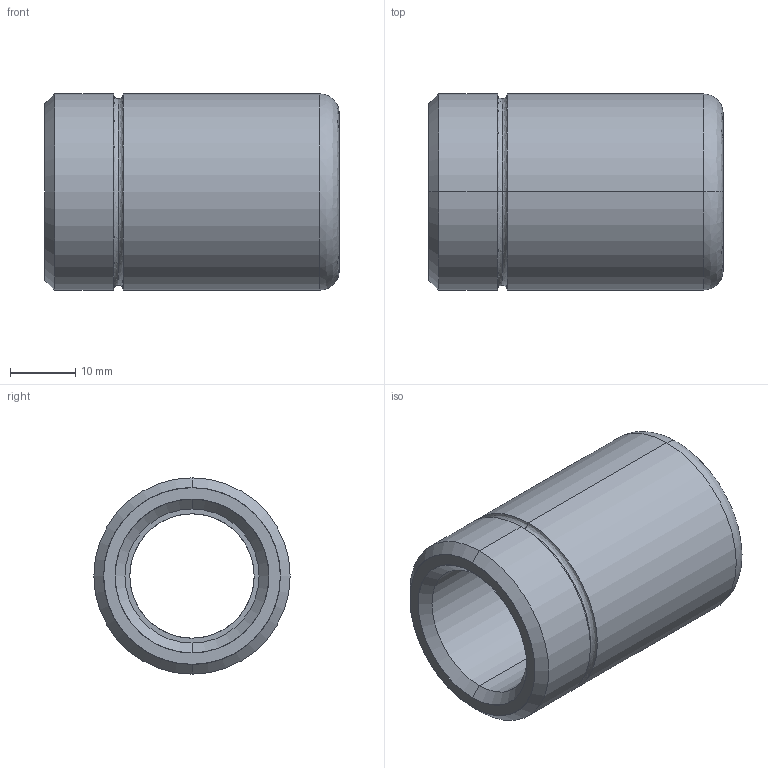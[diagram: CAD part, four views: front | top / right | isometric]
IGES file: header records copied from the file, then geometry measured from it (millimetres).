
Start section: START RECORD GO HERE.
Global section: file name: 347-19 x 45.igs; native system: DASSAULT SYSTEMES CATIA V5 R20 - www.3ds.com; preprocessor: CATIA Version 5 Release 20 ; author: Utente; organization: NB04-ASUS; date: 20210101.110344; units: millimetre
Bounding box: 45 x 30 x 30 mm (x, y, z)
Surface area: 7763.4 mm2 (no closed solid volume)
Topology: 0 solids, 0 shells, 29 faces, 172 edges, 172 vertices
Faces by surface type: revolution 26, plane 3
